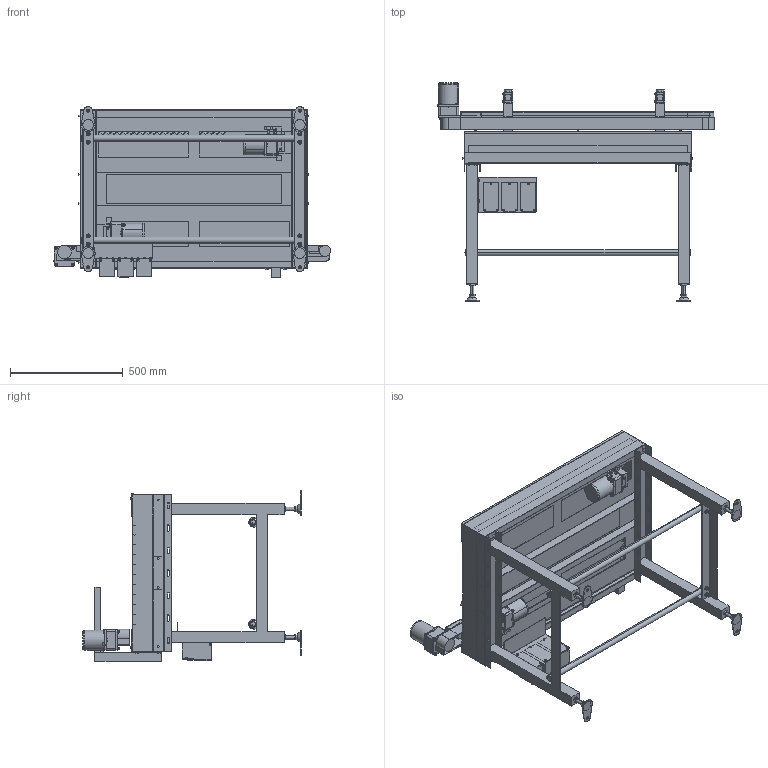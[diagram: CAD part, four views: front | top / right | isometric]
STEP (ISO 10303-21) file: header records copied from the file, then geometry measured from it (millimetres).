
FILE_DESCRIPTION( (''), '2;1');
FILE_NAME ('SGA-304x3-500-R-IVH-15-B.stp','2025-01-31T09:15:34',(''),(''),'spGate 20.6.2 (****-****-****-****)','','');
FILE_SCHEMA (('AUTOMOTIVE_DESIGN'));
Length unit declared in the file: millimetre
Products named in the file (94): NewModel; TEMP_X_T-prt0; TEMP_X_T-prt1; TEMP_X_T-prt2; TEMP_X_T-prt3; TEMP_X_T-prt4; TEMP_X_T-prt5; TEMP_X_T-prt6; TEMP_X_T-prt7; TEMP_X_T-prt8; TEMP_X_T-prt9; TEMP_X_T-prt10; TEMP_X_T-prt11; TEMP_X_T-prt12; TEMP_X_T-prt13; TEMP_X_T-prt14; TEMP_X_T-prt15; TEMP_X_T-prt16; TEMP_X_T-prt17; TEMP_X_T-prt18; TEMP_X_T-prt19; TEMP_X_T-prt20; TEMP_X_T-prt21; TEMP_X_T-prt22; TEMP_X_T-prt23; TEMP_X_T-prt24; TEMP_X_T-prt25; TEMP_X_T-prt26; TEMP_X_T-prt27; TEMP_X_T-prt28; TEMP_X_T-prt29; TEMP_X_T-prt30; TEMP_X_T-prt31; TEMP_X_T-prt32; TEMP_X_T-prt33; TEMP_X_T-prt34; TEMP_X_T-prt35; TEMP_X_T-prt36; TEMP_X_T-prt37; TEMP_X_T-prt38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
Assembly tree (93 placements, depth 2):
  NewModel
    TEMP_X_T-prt0
    TEMP_X_T-prt1
    TEMP_X_T-prt2
    TEMP_X_T-prt3
    TEMP_X_T-prt4
    TEMP_X_T-prt5
    TEMP_X_T-prt6
    TEMP_X_T-prt7
    TEMP_X_T-prt8
    TEMP_X_T-prt9
    TEMP_X_T-prt10
    TEMP_X_T-prt11
    TEMP_X_T-prt12
    TEMP_X_T-prt13
    TEMP_X_T-prt14
    TEMP_X_T-prt15
    TEMP_X_T-prt16
    TEMP_X_T-prt17
    TEMP_X_T-prt18
    TEMP_X_T-prt19
    TEMP_X_T-prt20
    TEMP_X_T-prt21
    TEMP_X_T-prt22
    TEMP_X_T-prt23
    TEMP_X_T-prt24
    TEMP_X_T-prt25
    TEMP_X_T-prt26
    TEMP_X_T-prt27
    TEMP_X_T-prt28
    TEMP_X_T-prt29
    TEMP_X_T-prt30
    TEMP_X_T-prt31
    TEMP_X_T-prt32
    TEMP_X_T-prt33
    TEMP_X_T-prt34
    TEMP_X_T-prt35
    TEMP_X_T-prt36
    TEMP_X_T-prt37
    TEMP_X_T-prt38
    TEMP_X_T-prt39
    TEMP_X_T-prt40
    TEMP_X_T-prt41
    TEMP_X_T-prt42
    TEMP_X_T-prt43
    TEMP_X_T-prt44
    TEMP_X_T-prt45
    TEMP_X_T-prt46
    TEMP_X_T-prt47
    TEMP_X_T-prt48
    TEMP_X_T-prt49
    TEMP_X_T-prt50
    TEMP_X_T-prt51
    TEMP_X_T-prt52
    TEMP_X_T-prt53
    TEMP_X_T-prt54
    TEMP_X_T-prt55
    TEMP_X_T-prt56
    TEMP_X_T-prt57
    TEMP_X_T-prt58
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Bounding box: 1229.27 x 969.4 x 760 mm (x, y, z)
Volume: 29832379.9 mm3; surface area: 6932597.7 mm2
Topology: 93 solids, 93 shells, 3432 faces, 8489 edges, 5430 vertices
Faces by surface type: plane 2246, cylinder 807, bspline 363, sphere 16
Entity records: 176119 total; most frequent: CARTESIAN_POINT 25400, ORIENTED_EDGE 16882, DIRECTION 15857, COLOUR_RGB 11966, PRESENTATION_STYLE_ASSIGNMENT 11966, STYLED_ITEM 11966, EDGE_CURVE 8441, DRAUGHTING_PRE_DEFINED_CURVE_FONT 8441
